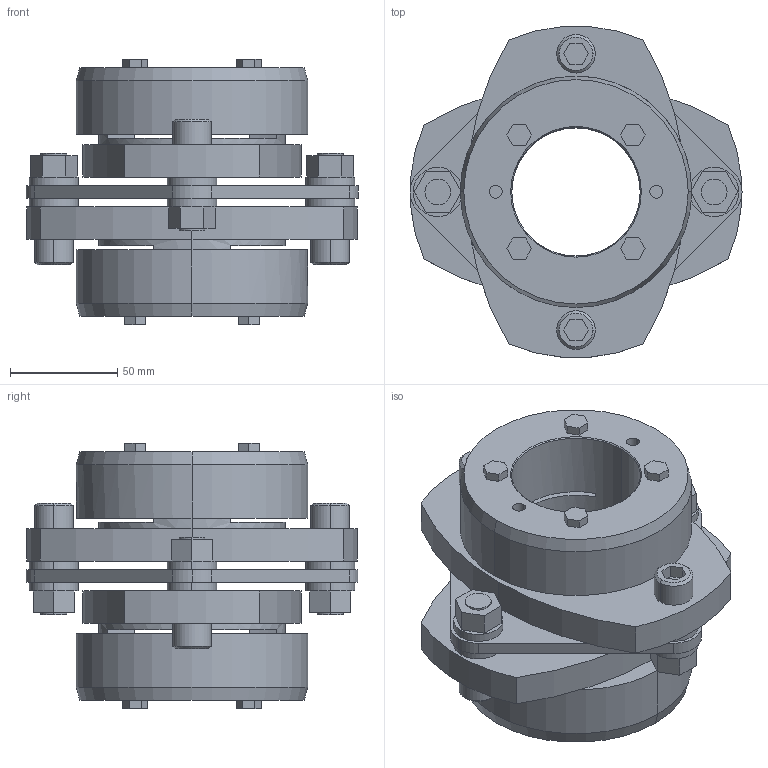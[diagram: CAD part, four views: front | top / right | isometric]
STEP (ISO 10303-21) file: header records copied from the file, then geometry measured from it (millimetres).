
FILE_DESCRIPTION((''),'2;1');
FILE_NAME('LCS-155T7-60×60.stp','2011-09-08T14:37:11',(''),(''),'AutoCAD STEP 2000i','AutoCAD 2000i',', , ');
FILE_SCHEMA(('CONFIG_CONTROL_DESIGN'));
Length unit declared in the file: millimetre
Products named in the file (11): LCS-155T7-60×60; 忣兜1; LC155T7-T060-1; LC155T7-T060; LC155T7-T055-1; LC155T7-T055; LC155T7-T050-1; LC155T7-T050; LC155T7-T045-1; LC155T7-T045; LCS155-ITA
Assembly tree (10 placements, depth 2):
  LCS-155T7-60×60
    忣兜1
    LC155T7-T060-1
    LC155T7-T060
    LC155T7-T055-1
    LC155T7-T055
    LC155T7-T050-1
    LC155T7-T050
    LC155T7-T045-1
    LC155T7-T045
    LCS155-ITA
Bounding box: 155 x 154.9 x 124 mm (x, y, z)
Volume: 825754.3 mm3; surface area: 148769.8 mm2
Topology: 1 solids, 1 shells, 246 faces, 606 edges, 398 vertices
Faces by surface type: plane 146, cylinder 80, cone 20
Entity records: 7555 total; most frequent: DIRECTION 1318, CARTESIAN_POINT 1261, ORIENTED_EDGE 1212, EDGE_CURVE 606, AXIS2_PLACEMENT_3D 455, VECTOR 408, LINE 408, VERTEX_POINT 398
